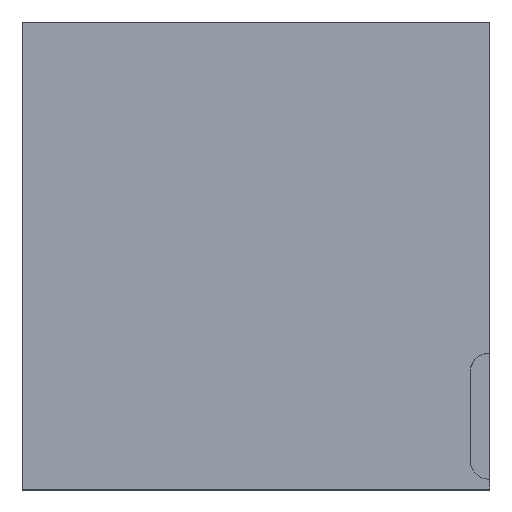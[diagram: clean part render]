
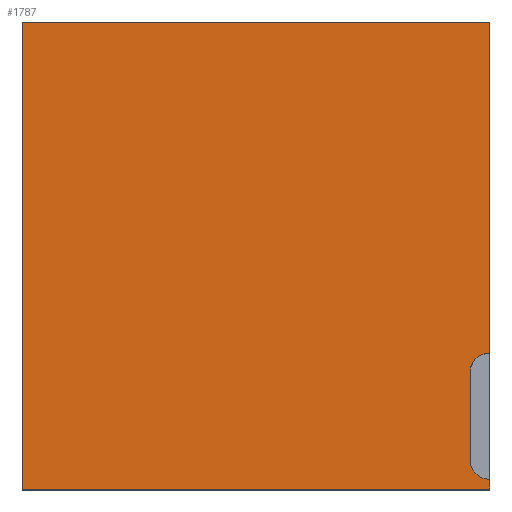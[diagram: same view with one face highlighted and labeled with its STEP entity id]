
A CAD part, top view. The second image highlights one B-rep face of the part: STEP entity #1787.
In plain terms, the highlighted planar face has unit normal (0, 0, 1).
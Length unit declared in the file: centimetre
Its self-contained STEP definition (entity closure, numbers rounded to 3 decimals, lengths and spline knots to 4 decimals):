
#66 = DIRECTION ( 'NONE',  ( 0., 0., 1. ) ) ;
#77 = VERTEX_POINT ( 'NONE', #1454 ) ;
#114 = DIRECTION ( 'NONE',  ( 0., 0., 1. ) ) ;
#124 = AXIS2_PLACEMENT_3D ( 'NONE', #1359, #66, #1495 ) ;
#173 = ORIENTED_EDGE ( 'NONE', *, *, #962, .T. ) ;
#186 = LINE ( 'NONE', #1453, #315 ) ;
#207 = LINE ( 'NONE', #456, #1708 ) ;
#227 = LINE ( 'NONE', #793, #1801 ) ;
#268 = DIRECTION ( 'NONE',  ( 0., -1., 0. ) ) ;
#269 = DIRECTION ( 'NONE',  ( 0., 1., 0. ) ) ;
#298 = ORIENTED_EDGE ( 'NONE', *, *, #1169, .T. ) ;
#309 = CIRCLE ( 'NONE', #1027, 41.7827 ) ;
#315 = VECTOR ( 'NONE', #730, 100. ) ;
#340 = VERTEX_POINT ( 'NONE', #1714 ) ;
#345 = CARTESIAN_POINT ( 'NONE',  ( 958.2173, 62.9718, 1000. ) ) ;
#440 = EDGE_CURVE ( 'NONE', #1278, #1609, #186, .T. ) ;
#456 = CARTESIAN_POINT ( 'NONE',  ( 0., 1000., 1000. ) ) ;
#482 = VERTEX_POINT ( 'NONE', #1038 ) ;
#492 = VECTOR ( 'NONE', #269, 100. ) ;
#547 = CARTESIAN_POINT ( 'NONE',  ( 958.2173, 62.9718, 1000. ) ) ;
#564 = EDGE_LOOP ( 'NONE', ( #1571, #657, #928, #298, #596, #1554, #1092, #173 ) ) ;
#591 = DIRECTION ( 'NONE',  ( 0., -1., 0. ) ) ;
#596 = ORIENTED_EDGE ( 'NONE', *, *, #1617, .T. ) ;
#621 = DIRECTION ( 'NONE',  ( 0., 0., 1. ) ) ;
#629 = CARTESIAN_POINT ( 'NONE',  ( 1000., 291.6803, 1000. ) ) ;
#635 = VERTEX_POINT ( 'NONE', #1363 ) ;
#651 = CARTESIAN_POINT ( 'NONE',  ( 0., 0., 1000. ) ) ;
#657 = ORIENTED_EDGE ( 'NONE', *, *, #1835, .F. ) ;
#730 = DIRECTION ( 'NONE',  ( 1., 0., 0. ) ) ;
#790 = PLANE ( 'NONE',  #124 ) ;
#793 = CARTESIAN_POINT ( 'NONE',  ( 0., 1000., 1000. ) ) ;
#798 = LINE ( 'NONE', #806, #1382 ) ;
#806 = CARTESIAN_POINT ( 'NONE',  ( 1000., 1000., 1000. ) ) ;
#928 = ORIENTED_EDGE ( 'NONE', *, *, #1502, .F. ) ;
#962 = EDGE_CURVE ( 'NONE', #1609, #482, #798, .T. ) ;
#1023 = CIRCLE ( 'NONE', #1463, 41.7827 ) ;
#1027 = AXIS2_PLACEMENT_3D ( 'NONE', #1172, #621, #1055 ) ;
#1038 = CARTESIAN_POINT ( 'NONE',  ( 1000., 21.189, 1000. ) ) ;
#1055 = DIRECTION ( 'NONE',  ( 1., 0., 0. ) ) ;
#1092 = ORIENTED_EDGE ( 'NONE', *, *, #440, .T. ) ;
#1113 = CARTESIAN_POINT ( 'NONE',  ( 1000., 1000., 1000. ) ) ;
#1169 = EDGE_CURVE ( 'NONE', #1303, #635, #1818, .T. ) ;
#1172 = CARTESIAN_POINT ( 'NONE',  ( 1000., 249.8976, 1000. ) ) ;
#1255 = DIRECTION ( 'NONE',  ( -1., 0., 0. ) ) ;
#1278 = VERTEX_POINT ( 'NONE', #651 ) ;
#1303 = VERTEX_POINT ( 'NONE', #629 ) ;
#1341 = CARTESIAN_POINT ( 'NONE',  ( 1000., 0., 1000. ) ) ;
#1348 = FACE_OUTER_BOUND ( 'NONE', #564, .T. ) ;
#1359 = CARTESIAN_POINT ( 'NONE',  ( 0., 0., 1000. ) ) ;
#1363 = CARTESIAN_POINT ( 'NONE',  ( 1000., 1000., 1000. ) ) ;
#1366 = DIRECTION ( 'NONE',  ( 0., 1., 0. ) ) ;
#1382 = VECTOR ( 'NONE', #1366, 100. ) ;
#1386 = CARTESIAN_POINT ( 'NONE',  ( 1000., 62.9718, 1000. ) ) ;
#1453 = CARTESIAN_POINT ( 'NONE',  ( 0., 0., 1000. ) ) ;
#1454 = CARTESIAN_POINT ( 'NONE',  ( 0., 1000., 1000. ) ) ;
#1463 = AXIS2_PLACEMENT_3D ( 'NONE', #1386, #114, #1255 ) ;
#1495 = DIRECTION ( 'NONE',  ( 1., 0., 0. ) ) ;
#1502 = EDGE_CURVE ( 'NONE', #1303, #340, #309, .T. ) ;
#1553 = VECTOR ( 'NONE', #268, 100. ) ;
#1554 = ORIENTED_EDGE ( 'NONE', *, *, #1555, .T. ) ;
#1555 = EDGE_CURVE ( 'NONE', #77, #1278, #207, .T. ) ;
#1571 = ORIENTED_EDGE ( 'NONE', *, *, #1820, .F. ) ;
#1609 = VERTEX_POINT ( 'NONE', #1341 ) ;
#1617 = EDGE_CURVE ( 'NONE', #635, #77, #227, .T. ) ;
#1654 = DIRECTION ( 'NONE',  ( -1., 0., 0. ) ) ;
#1708 = VECTOR ( 'NONE', #591, 100. ) ;
#1712 = VERTEX_POINT ( 'NONE', #345 ) ;
#1714 = CARTESIAN_POINT ( 'NONE',  ( 958.2173, 249.8976, 1000. ) ) ;
#1787 = ADVANCED_FACE ( 'NONE', ( #1348 ), #790, .T. ) ;
#1801 = VECTOR ( 'NONE', #1654, 100. ) ;
#1818 = LINE ( 'NONE', #1113, #492 ) ;
#1820 = EDGE_CURVE ( 'NONE', #1712, #482, #1023, .T. ) ;
#1824 = LINE ( 'NONE', #547, #1553 ) ;
#1835 = EDGE_CURVE ( 'NONE', #340, #1712, #1824, .T. ) ;
